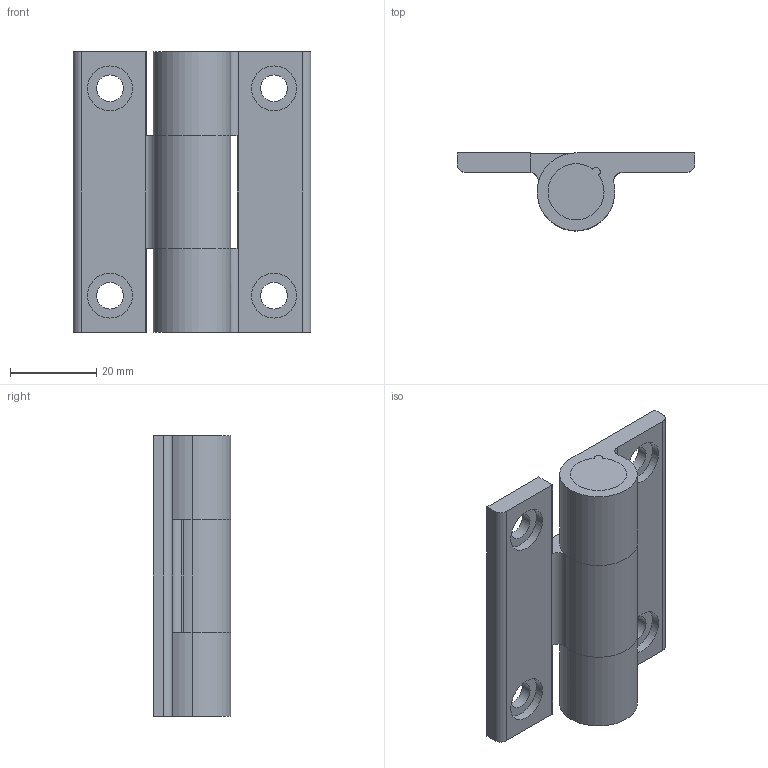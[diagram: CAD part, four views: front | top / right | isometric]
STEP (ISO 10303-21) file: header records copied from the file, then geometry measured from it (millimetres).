
FILE_DESCRIPTION((''),'2;1');
FILE_NAME('6871.04.70.stp','2011-08-01T15:00:29',(''),(''),'Mechanical Desktop 2006','Mechanical Desktop 2006',', , ');
FILE_SCHEMA(('CONFIG_CONTROL_DESIGN'));
Length unit declared in the file: millimetre
Products named in the file (4): 6871.04.70; TEIL1; TEIL2; TEIL3
Assembly tree (3 placements, depth 2):
  6871.04.70
    TEIL1
    TEIL2
    TEIL3
Bounding box: 55 x 18 x 65 mm (x, y, z)
Volume: 26961.1 mm3; surface area: 16044.7 mm2
Topology: 3 solids, 3 shells, 87 faces, 231 edges, 142 vertices
Faces by surface type: cylinder 52, plane 23, sphere 12
Entity records: 3008 total; most frequent: CARTESIAN_POINT 654, DIRECTION 513, ORIENTED_EDGE 438, EDGE_CURVE 219, AXIS2_PLACEMENT_3D 211, VERTEX_POINT 142, CIRCLE 120, EDGE_LOOP 105
